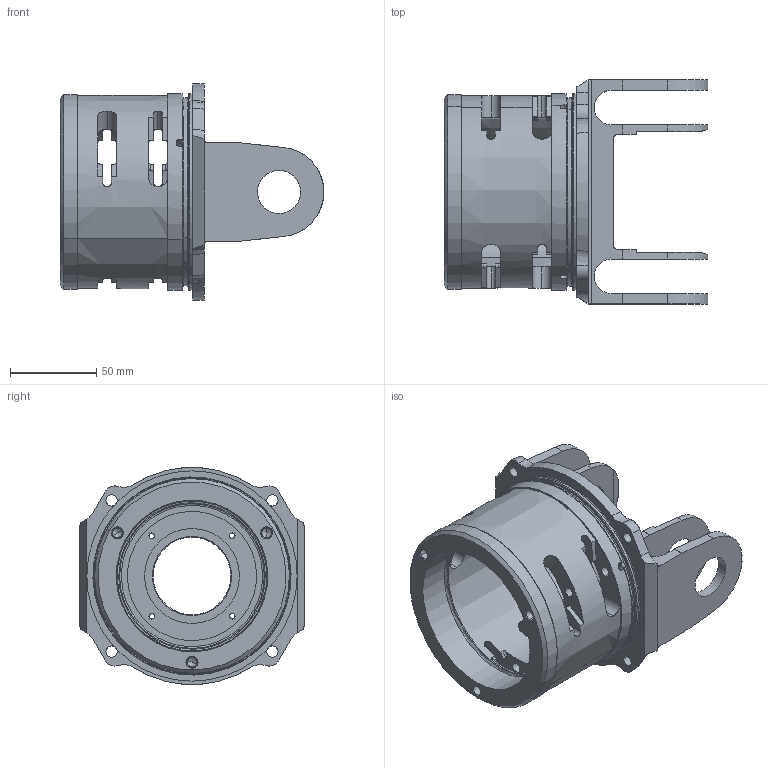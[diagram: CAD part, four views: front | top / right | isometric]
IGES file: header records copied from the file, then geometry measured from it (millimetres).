
Start section: START RECORD GO HERE.
Global section: file name: BOITIER IRREVERSIBILITE PIECE FINIE.igs; native system: IBM CATIA IGES - CATIA Version 5 Release 18 ; preprocessor: CATIA Version 5 Release 18 ; author: Propriétaire; organization: FUJITSU-79916BB; date: 20090111.155450; units: millimetre
Bounding box: 153 x 130 x 125.58 mm (x, y, z)
Surface area: 113266.7 mm2 (no closed solid volume)
Topology: 0 solids, 0 shells, 305 faces, 1846 edges, 1838 vertices
Faces by surface type: revolution 190, plane 107, bspline 4, extrusion 4
